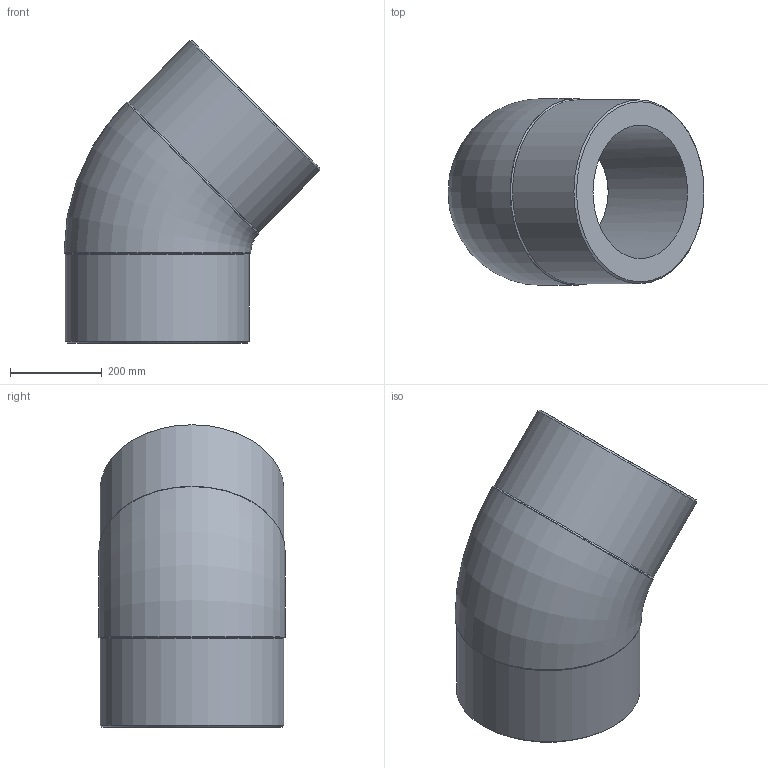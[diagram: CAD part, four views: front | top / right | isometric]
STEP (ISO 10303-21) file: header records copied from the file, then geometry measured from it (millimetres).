
FILE_DESCRIPTION(/* description */ ('Unknown'),/* implementation_level */ '2;1');
FILE_NAME(/* name */ 'G4P400H',/* time_stamp */ '2022-01-21T11:27:52+01:00',/* author */ ('Unknown'),/* organization */ ('Unknown'),/* preprocessor_version */ 'ST-DEVELOPER v18.1',/* originating_system */ 'Solid Edge',/* authorisation */ 'Unknown');
FILE_SCHEMA (('AUTOMOTIVE_DESIGN {1 0 10303 214 3 1 1}'));
Length unit declared in the file: millimetre
Products named in the file (1): G4P400H
Bounding box: 556.55 x 406 x 657.55 mm (x, y, z)
Volume: 36324035.1 mm3; surface area: 1415186.8 mm2
Topology: 1 solids, 1 shells, 14 faces, 34 edges, 22 vertices
Faces by surface type: cylinder 6, cone 4, plane 2, torus 2
Full cylindrical faces by diameter (mm): 290.6 x2, 400 x2, 406 x2
Entity records: 370 total; most frequent: CARTESIAN_POINT 70, DIRECTION 60, ORIENTED_EDGE 38, AXIS2_PLACEMENT_3D 30, EDGE_LOOP 27, FACE_BOUND 27, EDGE_CURVE 19, VERTEX_POINT 18
